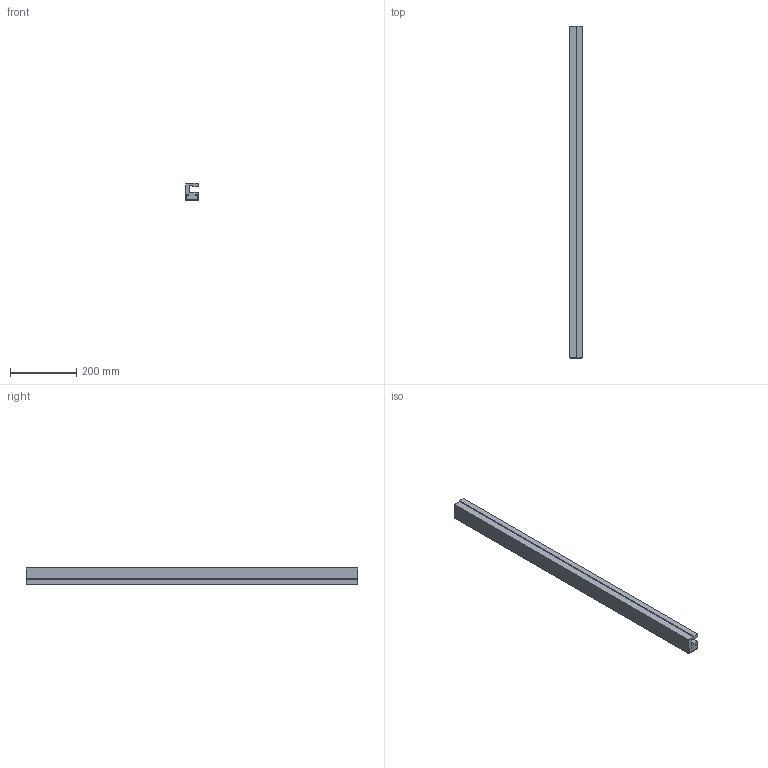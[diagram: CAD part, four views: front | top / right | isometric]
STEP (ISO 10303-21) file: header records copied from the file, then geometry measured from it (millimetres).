
FILE_DESCRIPTION(('CATIA V5 STEP Exchange'),'2;1');
FILE_NAME('C:\Users\ALI OZGUN\Desktop\alhan\PROFILLER\2071TTC01.stp','2017-12-29T14:16:49+00:00',('none'),('none'),'CATIA Version 5 Release 21 GA (IN-10)','CATIA V5 STEP AP203','none');
FILE_SCHEMA(('CONFIG_CONTROL_DESIGN'));
Length unit declared in the file: millimetre
Products named in the file (1): 2071TTC01
Bounding box: 38 x 1000 x 54 mm (x, y, z)
Volume: 1441291.6 mm3; surface area: 450165.8 mm2
Topology: 2 solids, 2 shells, 42 faces, 114 edges, 76 vertices
Faces by surface type: plane 38, cylinder 4
Entity records: 1273 total; most frequent: ORIENTED_EDGE 228, CARTESIAN_POINT 220, DIRECTION 172, EDGE_CURVE 114, VECTOR 106, LINE 106, VERTEX_POINT 76, ADVANCED_FACE 42
